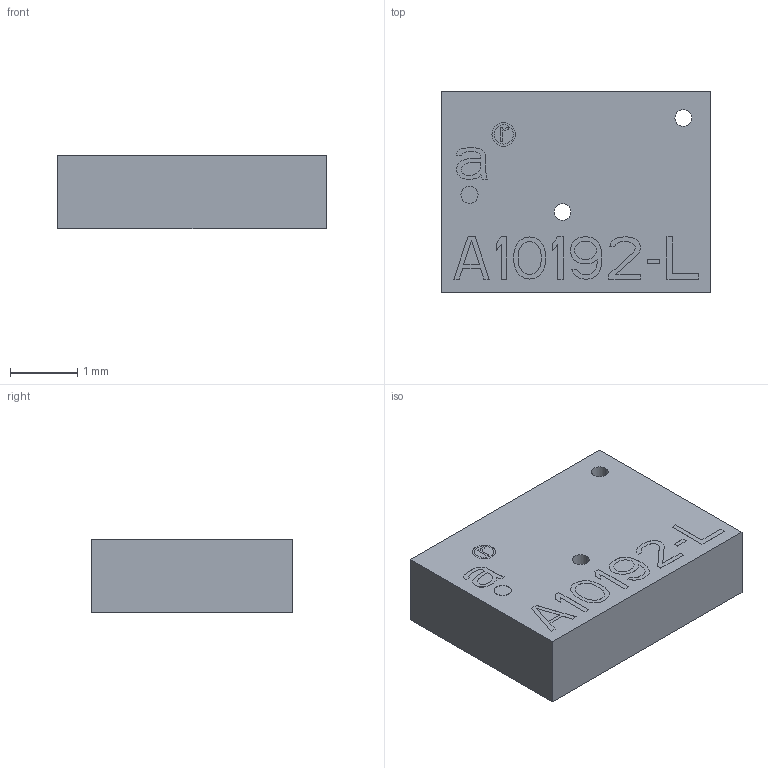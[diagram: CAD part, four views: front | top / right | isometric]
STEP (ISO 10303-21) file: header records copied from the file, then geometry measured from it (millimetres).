
FILE_DESCRIPTION((''),'2;1');
FILE_NAME('PRT0002','2008-07-24T',('Chris Morgans'),(''),'PRO/ENGINEER BY PARAMETRIC TECHNOLOGY CORPORATION, 2007390','PRO/ENGINEER BY PARAMETRIC TECHNOLOGY CORPORATION, 2007390','');
FILE_SCHEMA(('CONFIG_CONTROL_DESIGN'));
Length unit declared in the file: millimetre
Products named in the file (1): PRT0002
Bounding box: 4 x 3 x 1.1 mm (x, y, z)
Volume: 13.1 mm3; surface area: 41 mm2
Topology: 1 solids, 1 shells, 280 faces, 774 edges, 516 vertices
Faces by surface type: plane 270, cylinder 10
Entity records: 8804 total; most frequent: CARTESIAN_POINT 1570, ORIENTED_EDGE 1548, DIRECTION 1354, EDGE_CURVE 774, VECTOR 754, LINE 754, VERTEX_POINT 516, EDGE_LOOP 304
